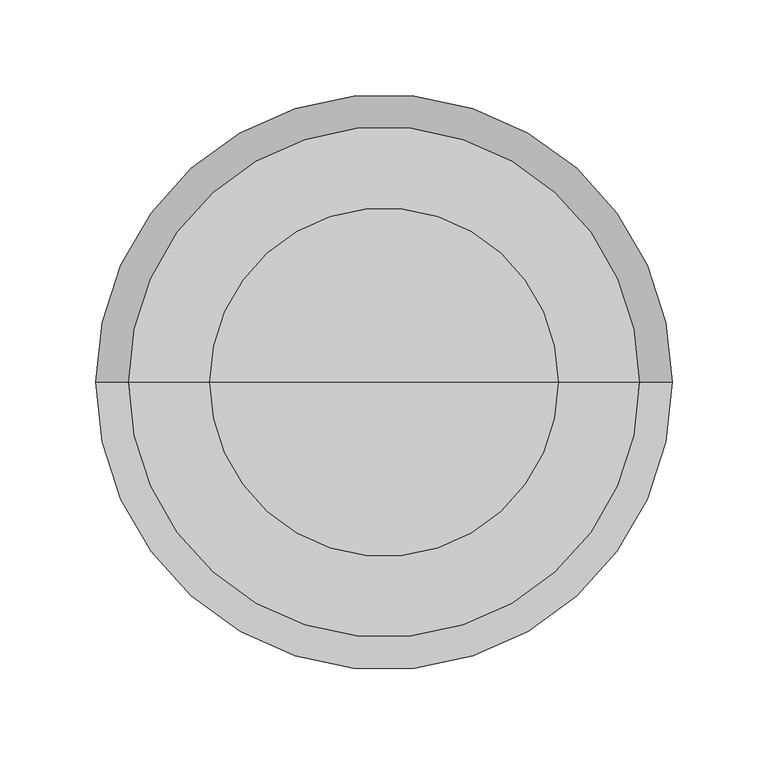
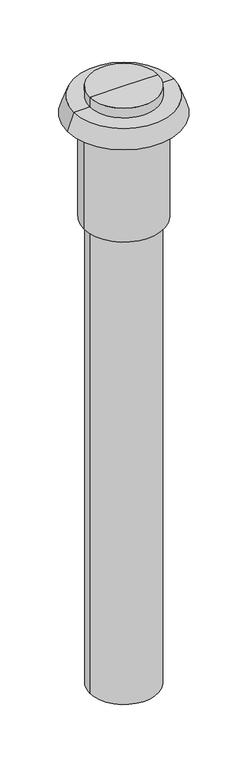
"""IFC4 building model written with IfcOpenShell, lengths in millimetres: air terminal geometry, NLRS_57_AIR_WPB_roof ventilation terminals_M&G : EPS Black, ø180 - L=1675mm."""

from ifc_helpers import new_model, si_unit, frame, origin, place, context, project, spatial, polyline, circle_curve, source, transform, mapped, element, save
from ifc_brep_helpers import plane_surface, cylinder_surface, revolved_surface, advanced_brep


def air_terminal_9c352d63(model_context):
    return source(origin(), model_context, "Body", "AdvancedBrep", [
        advanced_brep(
        [(90.7, 0.0, 365.0), (-90.7, 0.0, 365.0), (0.0, 0.0, 365.0), (90.7, 0.0, 338.0), (-90.7, 0.0, 338.0), (0.0, 0.0, 338.0)],
        [
            (0, 1, circle_curve(frame((0.0, 0.0, 365.0), z_axis=(0.0, 0.0, 1.0), x_axis=(-1.0, 0.0, 0.0)), 90.7)),
            (1, 2),
            (2, 0),
            (1, 0, circle_curve(frame((0.0, 0.0, 365.0), z_axis=(0.0, 0.0, 1.0), x_axis=(-1.0, 0.0, 0.0)), 90.7)),
            (3, 4, circle_curve(frame((0.0, 0.0, 338.0), z_axis=(0.0, 0.0, 1.0), x_axis=(-1.0, 0.0, 0.0)), 90.7)),
            (4, 1),
            (0, 3),
            (4, 3, circle_curve(frame((0.0, 0.0, 338.0), z_axis=(0.0, 0.0, 1.0), x_axis=(-1.0, 0.0, 0.0)), 90.7)),
            (5, 4),
            (3, 5),
        ],
        [
            plane_surface(frame((0.0, 0.0, 365.0), z_axis=(0.0, 0.0, 1.0), x_axis=(-1.0, 0.0, 0.0))),
            cylinder_surface(frame((0.0, 0.0, 2068.3150031), z_axis=(0.0, 0.0, -1.0), x_axis=(-1.0, 0.0, 0.0)), 90.7),
            plane_surface(frame((0.0, 0.0, 338.0), z_axis=(0.0, 0.0, -1.0), x_axis=(-1.0, 0.0, 0.0))),
        ],
        [
            (0, [[1, 2, 3]]),
            (0, [[4, -3, -2]]),
            (1, [[5, 6, -1, 7]]),
            (1, [[8, -7, -4, -6]]),
            (2, [[9, -5, 10]]),
            (2, [[-10, -8, -9]]),
        ],
    ),
        advanced_brep(
        [(106.0, 0.0, 290.0), (-106.0, 0.0, 290.0), (0.0, 0.0, 290.0), (106.0, 0.0, 0.0), (-106.0, 0.0, 0.0), (0.0, 0.0, 0.0)],
        [
            (0, 1, circle_curve(frame((0.0, 0.0, 290.0), z_axis=(0.0, 0.0, 1.0), x_axis=(-1.0, 0.0, 0.0)), 106.0)),
            (1, 2),
            (2, 0),
            (1, 0, circle_curve(frame((0.0, 0.0, 290.0), z_axis=(0.0, 0.0, 1.0), x_axis=(-1.0, 0.0, 0.0)), 106.0)),
            (3, 4, circle_curve(frame((0.0, 0.0, 0.0), z_axis=(0.0, 0.0, 1.0), x_axis=(-1.0, 0.0, 0.0)), 106.0)),
            (4, 1),
            (0, 3),
            (4, 3, circle_curve(frame((0.0, 0.0, 0.0), z_axis=(0.0, 0.0, 1.0), x_axis=(-1.0, 0.0, 0.0)), 106.0)),
            (5, 4),
            (3, 5),
        ],
        [
            plane_surface(frame((0.0, 0.0, 290.0), z_axis=(0.0, 0.0, 1.0), x_axis=(-1.0, 0.0, 0.0))),
            cylinder_surface(frame((0.0, 0.0, 2112.3150031), z_axis=(0.0, 0.0, -1.0), x_axis=(-1.0, 0.0, 0.0)), 106.0),
            plane_surface(frame((0.0, 0.0, 0.0), z_axis=(0.0, 0.0, -1.0), x_axis=(-1.0, 0.0, 0.0))),
        ],
        [
            (0, [[1, 2, 3]]),
            (0, [[4, -3, -2]]),
            (1, [[5, 6, -1, 7]]),
            (1, [[8, -7, -4, -6]]),
            (2, [[9, -5, 10]]),
            (2, [[-10, -8, -9]]),
        ],
    ),
        advanced_brep(
        [(133.0, 0.0, 338.0), (-133.0, 0.0, 338.0), (0.0, 0.0, 338.0), (150.0, 0.0, 290.0), (-150.0, 0.0, 290.0), (0.0, 0.0, 290.0)],
        [
            (0, 1, circle_curve(frame((0.0, 0.0, 338.0), z_axis=(0.0, 0.0, 1.0), x_axis=(-1.0, 0.0, 0.0)), 133.0)),
            (1, 2),
            (2, 0),
            (1, 0, circle_curve(frame((0.0, 0.0, 338.0), z_axis=(0.0, 0.0, 1.0), x_axis=(-1.0, 0.0, 0.0)), 133.0)),
            (3, 4, circle_curve(frame((0.0, 0.0, 290.0), z_axis=(0.0, 0.0, 1.0), x_axis=(-1.0, 0.0, 0.0)), 150.0)),
            (4, 1),
            (0, 3),
            (4, 3, circle_curve(frame((0.0, 0.0, 290.0), z_axis=(0.0, 0.0, 1.0), x_axis=(-1.0, 0.0, 0.0)), 150.0)),
            (5, 4),
            (3, 5),
        ],
        [
            plane_surface(frame((0.0, 0.0, 338.0), z_axis=(0.0, 0.0, 1.0), x_axis=(-1.0, 0.0, 0.0))),
            revolved_surface(polyline([(-133.0, 0.0, 338.0), (-150.0, 0.0, 290.0)]), (0.0, 0.0, 2058.3150031), (0.0, 0.0, -1.0)),
            plane_surface(frame((0.0, 0.0, 290.0), z_axis=(0.0, 0.0, -1.0), x_axis=(-1.0, 0.0, 0.0))),
        ],
        [
            (0, [[1, 2, 3]]),
            (0, [[4, -3, -2]]),
            (1, [[5, 6, -1, 7]]),
            (1, [[8, -7, -4, -6]]),
            (2, [[9, -5, 10]]),
            (2, [[-10, -8, -9]]),
        ],
    ),
        advanced_brep(
        [(90.0, 0.0, -1310.0), (-90.0, 0.0, -1310.0), (-90.0, 0.0, 0.0), (90.0, 0.0, 0.0), (0.0, 0.0, -1310.0), (0.0, 0.0, 0.0)],
        [
            (0, 1, circle_curve(frame((0.0, 0.0, -1310.0), z_axis=(0.0, 0.0, 1.0), x_axis=(-1.0, 0.0, 0.0)), 90.0)),
            (1, 2),
            (2, 3, circle_curve(frame((0.0, 0.0, 0.0), z_axis=(0.0, 0.0, -1.0), x_axis=(-1.0, 0.0, 0.0)), 90.0)),
            (3, 0),
            (1, 0, circle_curve(frame((0.0, 0.0, -1310.0), z_axis=(0.0, 0.0, 1.0), x_axis=(-1.0, 0.0, 0.0)), 90.0)),
            (3, 2, circle_curve(frame((0.0, 0.0, 0.0), z_axis=(0.0, 0.0, -1.0), x_axis=(-1.0, 0.0, 0.0)), 90.0)),
            (4, 1),
            (0, 4),
            (2, 5),
            (5, 3),
        ],
        [
            cylinder_surface(frame((0.0, 0.0, 2058.3150031), z_axis=(0.0, 0.0, -1.0), x_axis=(-1.0, 0.0, 0.0)), 90.0),
            plane_surface(frame((0.0, 0.0, -1310.0), z_axis=(0.0, 0.0, -1.0), x_axis=(-1.0, 0.0, 0.0))),
            plane_surface(frame((0.0, 0.0, 0.0), z_axis=(0.0, 0.0, 1.0), x_axis=(-1.0, 0.0, 0.0))),
        ],
        [
            (0, [[1, 2, 3, 4]]),
            (0, [[5, -4, 6, -2]]),
            (1, [[7, -1, 8]]),
            (1, [[-8, -5, -7]]),
            (2, [[-3, 9, 10]]),
            (2, [[-6, -10, -9]]),
        ],
    ),
    ])


if __name__ == "__main__":
    model = new_model("IFC4")
    model_context = context("Model", 3, world=origin())
    ifc_project = project(units=[si_unit("LENGTHUNIT", "METRE", prefix="MILLI")], contexts=[model_context])
    site = spatial("IfcSite", under=ifc_project)
    building = spatial("IfcBuilding", under=site)
    placement = place(None, origin())
    air_terminal_shape = air_terminal_9c352d63(model_context)
    element("IfcAirTerminal", 1, ObjectType="NLRS_57_AIR_WPB_roof ventilation terminals_M&G : EPS Black, ø180 - L=1675mm", at=placement, inside=building, context=model_context, shape_type="MappedRepresentation", body=[
        mapped(air_terminal_shape, transform((0.0, 0.0, 0.0), x_axis=(1.0, 0.0, 0.0), y_axis=(0.0, 1.0, 0.0), z_axis=(0.0, 0.0, 1.0))),
    ])
    save(model, "model.ifc")
